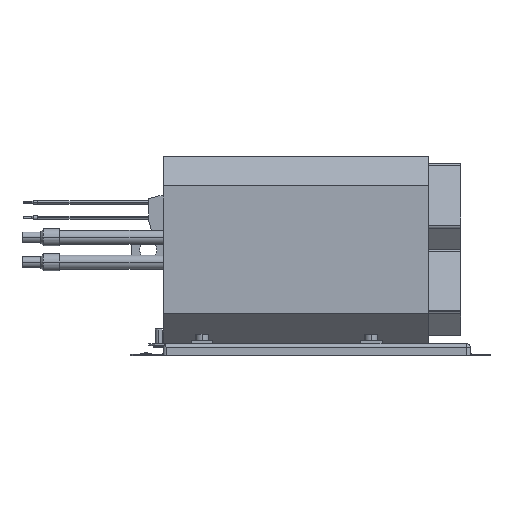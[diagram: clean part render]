
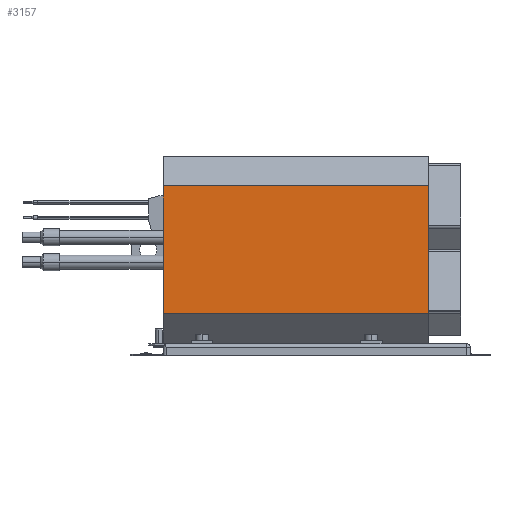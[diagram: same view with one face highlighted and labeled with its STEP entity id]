
A CAD part, left-side view. The second image highlights one B-rep face of the part: STEP entity #3157.
In plain terms, the highlighted planar face has unit normal (-1, 0, 0).
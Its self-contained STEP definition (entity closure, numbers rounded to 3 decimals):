
#200 = DIRECTION ( 'NONE',  ( 0., 0., -1. ) ) ;
#690 = VECTOR ( 'NONE', #4465, 1000. ) ;
#1670 = ORIENTED_EDGE ( 'NONE', *, *, #6709, .F. ) ;
#2261 = VECTOR ( 'NONE', #15466, 1000. ) ;
#3157 = ADVANCED_FACE ( 'NONE', ( #12767 ), #18957, .F. ) ;
#3287 = ORIENTED_EDGE ( 'NONE', *, *, #13451, .F. ) ;
#3414 = EDGE_CURVE ( 'NONE', #10368, #4163, #12200, .T. ) ;
#3516 = DIRECTION ( 'NONE',  ( 1., 0., 0. ) ) ;
#3847 = VERTEX_POINT ( 'NONE', #17254 ) ;
#3999 = VERTEX_POINT ( 'NONE', #6974 ) ;
#4163 = VERTEX_POINT ( 'NONE', #9087 ) ;
#4303 = EDGE_LOOP ( 'NONE', ( #8099, #17259, #3287, #1670 ) ) ;
#4352 = VECTOR ( 'NONE', #200, 1000. ) ;
#4465 = DIRECTION ( 'NONE',  ( 0., 0., 1. ) ) ;
#4771 = CARTESIAN_POINT ( 'NONE',  ( -267., -308., 218.621 ) ) ;
#4822 = EDGE_CURVE ( 'NONE', #10368, #3847, #5578, .T. ) ;
#5578 = LINE ( 'NONE', #7392, #690 ) ;
#6405 = CARTESIAN_POINT ( 'NONE',  ( -267., 2., 35.354 ) ) ;
#6709 = EDGE_CURVE ( 'NONE', #3847, #3999, #18017, .T. ) ;
#6974 = CARTESIAN_POINT ( 'NONE',  ( -267., -308., 184.646 ) ) ;
#7392 = CARTESIAN_POINT ( 'NONE',  ( -267., 2., 218.621 ) ) ;
#8099 = ORIENTED_EDGE ( 'NONE', *, *, #4822, .F. ) ;
#9087 = CARTESIAN_POINT ( 'NONE',  ( -267., -308., 35.354 ) ) ;
#9700 = DIRECTION ( 'NONE',  ( 0., 0., -1. ) ) ;
#10368 = VERTEX_POINT ( 'NONE', #6405 ) ;
#10742 = LINE ( 'NONE', #4771, #4352 ) ;
#10889 = CARTESIAN_POINT ( 'NONE',  ( -267., -308., 35.354 ) ) ;
#12200 = LINE ( 'NONE', #10889, #2261 ) ;
#12767 = FACE_OUTER_BOUND ( 'NONE', #4303, .T. ) ;
#13277 = AXIS2_PLACEMENT_3D ( 'NONE', #17431, #3516, #9700 ) ;
#13350 = DIRECTION ( 'NONE',  ( 0., -1., 0. ) ) ;
#13451 = EDGE_CURVE ( 'NONE', #3999, #4163, #10742, .T. ) ;
#15466 = DIRECTION ( 'NONE',  ( 0., -1., 0. ) ) ;
#17254 = CARTESIAN_POINT ( 'NONE',  ( -267., 2., 184.646 ) ) ;
#17259 = ORIENTED_EDGE ( 'NONE', *, *, #3414, .T. ) ;
#17431 = CARTESIAN_POINT ( 'NONE',  ( -267., -308., 184.024 ) ) ;
#18017 = LINE ( 'NONE', #18325, #18584 ) ;
#18325 = CARTESIAN_POINT ( 'NONE',  ( -267., -308., 184.646 ) ) ;
#18584 = VECTOR ( 'NONE', #13350, 1000. ) ;
#18957 = PLANE ( 'NONE',  #13277 ) ;
